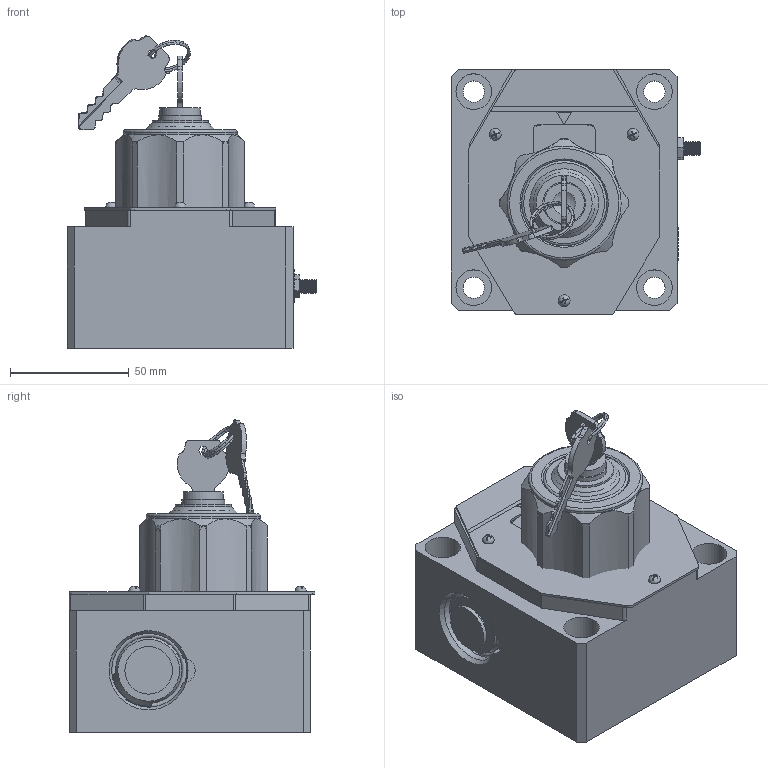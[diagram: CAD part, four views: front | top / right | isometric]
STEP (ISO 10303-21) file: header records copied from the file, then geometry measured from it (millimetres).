
FILE_DESCRIPTION(/* description */ (''),/* implementation_level */ '2;1');
FILE_NAME(/* name */ '2FRM10-2XJ-B调速阀（带压力补偿行程限制器）.prt.stp',/* time_stamp */ '2022-03-30T19:55:54+08:00',/* author */ (''),/* organization */ (''),/* preprocessor_version */ 'ST-DEVELOPER v16.7',/* originating_system */ 'SIEMENS PLM Software NX 12.0',/* authorisation */ '');
FILE_SCHEMA (('AUTOMOTIVE_DESIGN { 1 0 10303 214 3 1 1 1 }'));
Products named in the file (1): 2FRM10-2XJ-B调速阀（带压力补偿行程限制器）
Bounding box: 105 x 103.5 x 131.4 mm (x, y, z)
Volume: 591186 mm3; surface area: 119679 mm2
Topology: 27 solids, 37 shells, 1033 faces, 2725 edges, 1795 vertices
Faces by surface type: cylinder 384, plane 346, cone 148, extrusion 84, torus 46, bspline 19, sphere 6
Full cylindrical faces by diameter (mm): 2.55 x3, 3 x3, 6 x1, 7 x1, 8.2 x1, 9 x4, 11 x1, 12 x3, 12.8 x1, 14 x1, 15 x4, 15.5 x1, 16 x1, 17 x3, 18 x7, 20 x1, 21.2 x1, 22 x2, 23.6 x1, 25.2 x2, 25.9 x2, 26 x1, 29 x1, 30.2 x1, 30.5 x1, 32.5 x1, 33 x1, 34.1 x1, 34.8 x1, 36 x2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
Entity records: 56053 total; most frequent: CARTESIAN_POINT 31236, ORIENTED_EDGE 5078, DIRECTION 4713, EDGE_CURVE 2539, AXIS2_PLACEMENT_3D 1802, VERTEX_POINT 1756, EDGE_LOOP 1240, VECTOR 1109
